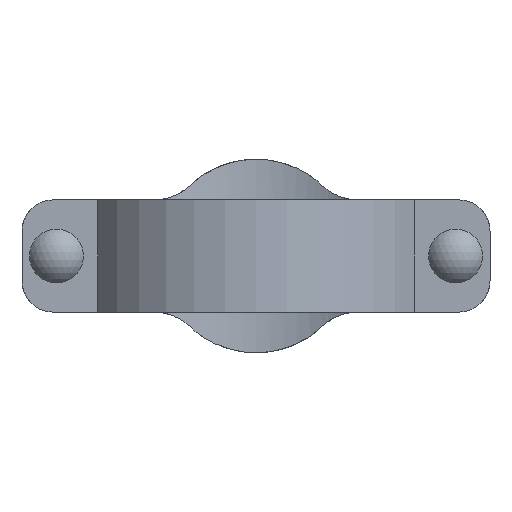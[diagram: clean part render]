
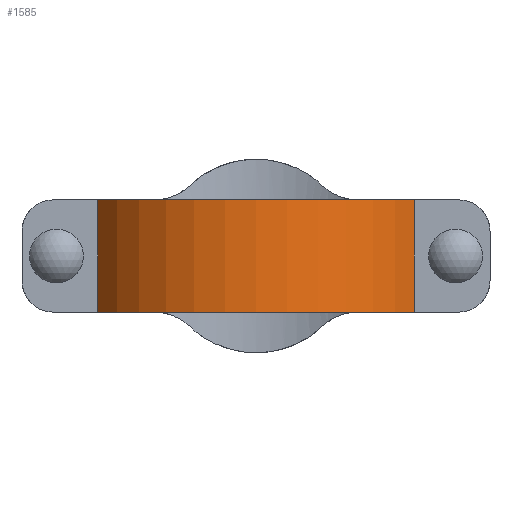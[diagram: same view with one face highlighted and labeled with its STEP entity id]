
A CAD part, front view. The second image highlights one B-rep face of the part: STEP entity #1585.
In plain terms, the highlighted cylindrical face has radius 95.25 mm (diameter 190.5 mm), a partial arc.
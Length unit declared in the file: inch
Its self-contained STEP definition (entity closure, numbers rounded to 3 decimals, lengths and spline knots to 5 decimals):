
#95=CYLINDRICAL_SURFACE('',#1733,3.75);
#173=FACE_OUTER_BOUND('',#257,.T.);
#257=EDGE_LOOP('',(#1226,#1227,#1228,#1229));
#390=LINE('',#2830,#517);
#391=LINE('',#2832,#518);
#517=VECTOR('',#2092,0.3937);
#518=VECTOR('',#2093,0.3937);
#589=CIRCLE('',#1732,3.75);
#590=CIRCLE('',#1734,3.75);
#722=VERTEX_POINT('',#2823);
#723=VERTEX_POINT('',#2825);
#724=VERTEX_POINT('',#2829);
#725=VERTEX_POINT('',#2831);
#913=EDGE_CURVE('',#722,#723,#589,.T.);
#915=EDGE_CURVE('',#723,#724,#390,.T.);
#916=EDGE_CURVE('',#725,#722,#391,.T.);
#917=EDGE_CURVE('',#724,#725,#590,.T.);
#1226=ORIENTED_EDGE('',*,*,#915,.F.);
#1227=ORIENTED_EDGE('',*,*,#913,.F.);
#1228=ORIENTED_EDGE('',*,*,#916,.F.);
#1229=ORIENTED_EDGE('',*,*,#917,.F.);
#1585=ADVANCED_FACE('',(#173),#95,.T.);
#1732=AXIS2_PLACEMENT_3D('',#2826,#2087,#2088);
#1733=AXIS2_PLACEMENT_3D('',#2828,#2090,#2091);
#1734=AXIS2_PLACEMENT_3D('',#2833,#2094,#2095);
#2087=DIRECTION('center_axis',(0.,0.,1.));
#2088=DIRECTION('ref_axis',(-0.846,-0.533,0.));
#2090=DIRECTION('center_axis',(0.,0.,1.));
#2091=DIRECTION('ref_axis',(-0.846,-0.533,0.));
#2092=DIRECTION('',(0.,0.,-1.));
#2093=DIRECTION('',(0.,0.,1.));
#2094=DIRECTION('center_axis',(0.,0.,-1.));
#2095=DIRECTION('ref_axis',(-0.846,-0.533,0.));
#2823=CARTESIAN_POINT('',(-3.17214,-2.,1.125));
#2825=CARTESIAN_POINT('',(3.17214,-2.,1.125));
#2826=CARTESIAN_POINT('Origin',(0.,0.,1.125));
#2828=CARTESIAN_POINT('Origin',(0.,0.,0.));
#2829=CARTESIAN_POINT('',(3.17214,-2.,-1.125));
#2830=CARTESIAN_POINT('',(3.17214,-2.,0.));
#2831=CARTESIAN_POINT('',(-3.17214,-2.,-1.125));
#2832=CARTESIAN_POINT('',(-3.17214,-2.,0.));
#2833=CARTESIAN_POINT('Origin',(0.,0.,-1.125));
